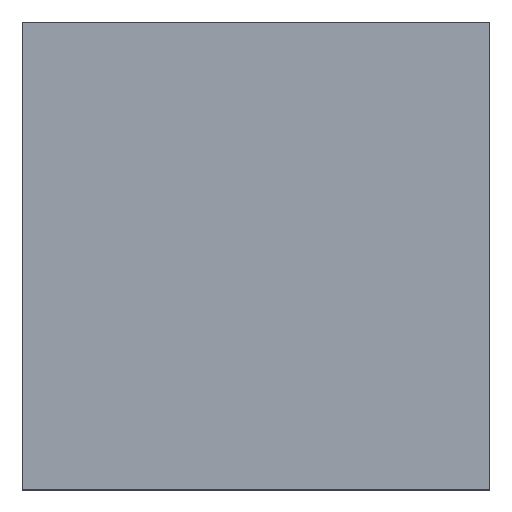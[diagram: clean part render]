
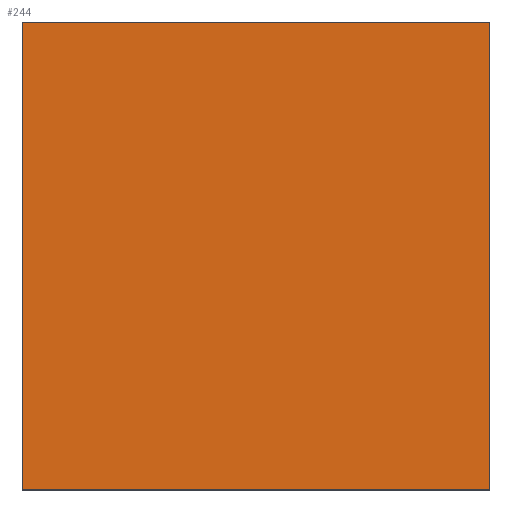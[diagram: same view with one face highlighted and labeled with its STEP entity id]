
A CAD part, top view. The second image highlights one B-rep face of the part: STEP entity #244.
In plain terms, the highlighted planar face has unit normal (0, 0, 1).
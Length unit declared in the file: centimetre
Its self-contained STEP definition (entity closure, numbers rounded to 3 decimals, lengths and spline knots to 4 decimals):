
#2 = LINE ( 'NONE', #253, #182 ) ;
#41 = DIRECTION ( 'NONE',  ( -1., 0., 0. ) ) ;
#44 = AXIS2_PLACEMENT_3D ( 'NONE', #199, #430, #193 ) ;
#65 = VERTEX_POINT ( 'NONE', #322 ) ;
#103 = PLANE ( 'NONE',  #44 ) ;
#104 = EDGE_LOOP ( 'NONE', ( #460, #269, #171, #318 ) ) ;
#113 = EDGE_CURVE ( 'NONE', #65, #284, #2, .T. ) ;
#117 = CARTESIAN_POINT ( 'NONE',  ( 0., 1000., 1000. ) ) ;
#122 = EDGE_CURVE ( 'NONE', #466, #438, #474, .T. ) ;
#125 = DIRECTION ( 'NONE',  ( 0., 1., 0. ) ) ;
#146 = DIRECTION ( 'NONE',  ( 0., -1., 0. ) ) ;
#171 = ORIENTED_EDGE ( 'NONE', *, *, #122, .T. ) ;
#182 = VECTOR ( 'NONE', #146, 100. ) ;
#193 = DIRECTION ( 'NONE',  ( 1., 0., 0. ) ) ;
#194 = CARTESIAN_POINT ( 'NONE',  ( 1000., 1000., 1000. ) ) ;
#199 = CARTESIAN_POINT ( 'NONE',  ( 0., 0., 1000. ) ) ;
#203 = CARTESIAN_POINT ( 'NONE',  ( 1000., 1000., 1000. ) ) ;
#226 = CARTESIAN_POINT ( 'NONE',  ( 1000., 0., 1000. ) ) ;
#244 = ADVANCED_FACE ( 'NONE', ( #313 ), #103, .T. ) ;
#253 = CARTESIAN_POINT ( 'NONE',  ( 0., 1000., 1000. ) ) ;
#258 = CARTESIAN_POINT ( 'NONE',  ( 0., 0., 1000. ) ) ;
#259 = VECTOR ( 'NONE', #342, 100. ) ;
#269 = ORIENTED_EDGE ( 'NONE', *, *, #440, .T. ) ;
#284 = VERTEX_POINT ( 'NONE', #258 ) ;
#311 = EDGE_CURVE ( 'NONE', #438, #65, #334, .T. ) ;
#313 = FACE_OUTER_BOUND ( 'NONE', #104, .T. ) ;
#318 = ORIENTED_EDGE ( 'NONE', *, *, #311, .T. ) ;
#322 = CARTESIAN_POINT ( 'NONE',  ( 0., 1000., 1000. ) ) ;
#334 = LINE ( 'NONE', #117, #428 ) ;
#336 = LINE ( 'NONE', #448, #259 ) ;
#342 = DIRECTION ( 'NONE',  ( 1., 0., 0. ) ) ;
#420 = VECTOR ( 'NONE', #125, 100. ) ;
#428 = VECTOR ( 'NONE', #41, 100. ) ;
#430 = DIRECTION ( 'NONE',  ( 0., 0., 1. ) ) ;
#438 = VERTEX_POINT ( 'NONE', #194 ) ;
#440 = EDGE_CURVE ( 'NONE', #284, #466, #336, .T. ) ;
#448 = CARTESIAN_POINT ( 'NONE',  ( 0., 0., 1000. ) ) ;
#460 = ORIENTED_EDGE ( 'NONE', *, *, #113, .T. ) ;
#466 = VERTEX_POINT ( 'NONE', #226 ) ;
#474 = LINE ( 'NONE', #203, #420 ) ;
